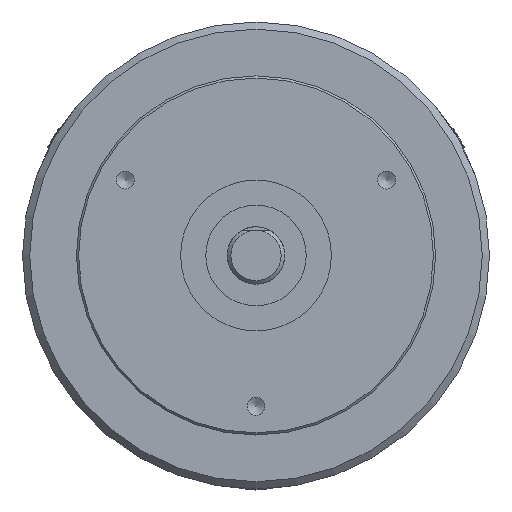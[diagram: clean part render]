
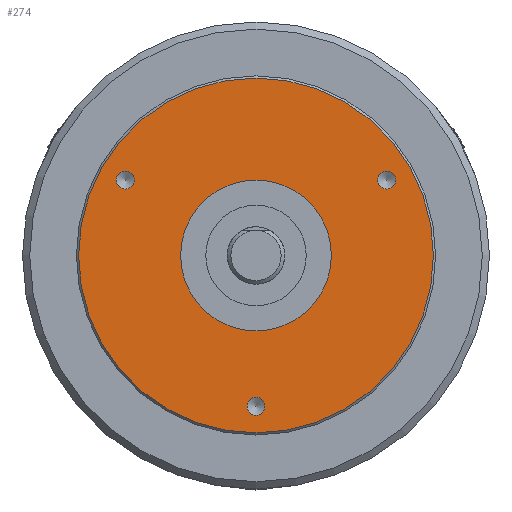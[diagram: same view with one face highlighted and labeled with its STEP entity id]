
A CAD part, left-side view. The second image highlights one B-rep face of the part: STEP entity #274.
In plain terms, the highlighted planar face has unit normal (-1, 0, 0).
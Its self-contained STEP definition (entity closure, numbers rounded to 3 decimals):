
#274=ADVANCED_FACE('',(#624,#625,#626,#627,#628),#629,.F.);
#624=FACE_OUTER_BOUND('',#1123,.T.);
#625=FACE_BOUND('',#1124,.T.);
#626=FACE_BOUND('',#1125,.T.);
#627=FACE_BOUND('',#1126,.T.);
#628=FACE_BOUND('',#1127,.T.);
#629=PLANE('',#1128);
#1123=EDGE_LOOP('',(#1705));
#1124=EDGE_LOOP('',(#1706));
#1125=EDGE_LOOP('',(#1707));
#1126=EDGE_LOOP('',(#1708));
#1127=EDGE_LOOP('',(#1709));
#1128=AXIS2_PLACEMENT_3D('',#1710,#1711,#1712);
#1705=ORIENTED_EDGE('',*,*,#2640,.T.);
#1706=ORIENTED_EDGE('',*,*,#2658,.F.);
#1707=ORIENTED_EDGE('',*,*,#2659,.F.);
#1708=ORIENTED_EDGE('',*,*,#2660,.F.);
#1709=ORIENTED_EDGE('',*,*,#2661,.F.);
#1710=CARTESIAN_POINT('',(0.,17.75,0.0));
#1711=DIRECTION('',(1.0,0.0,0.0));
#1712=DIRECTION('',(0.0,0.0,-1.0));
#2640=EDGE_CURVE('',#3070,#3070,#3071,.F.);
#2658=EDGE_CURVE('',#3098,#3098,#3099,.T.);
#2659=EDGE_CURVE('',#3100,#3100,#3101,.T.);
#2660=EDGE_CURVE('',#3102,#3102,#3103,.T.);
#2661=EDGE_CURVE('',#3104,#3104,#3105,.T.);
#3070=VERTEX_POINT('',#3715);
#3071=CIRCLE('',#3716,24.7);
#3098=VERTEX_POINT('',#3878);
#3099=CIRCLE('',#3879,1.25);
#3100=VERTEX_POINT('',#3880);
#3101=CIRCLE('',#3881,1.25);
#3102=VERTEX_POINT('',#3882);
#3103=CIRCLE('',#3883,1.25);
#3104=VERTEX_POINT('',#3884);
#3105=CIRCLE('',#3885,10.5);
#3715=CARTESIAN_POINT('',(0.,0.,-24.7));
#3716=AXIS2_PLACEMENT_3D('',#4784,#4785,#4786);
#3878=CARTESIAN_POINT('',(0.,-1.25,-21.0));
#3879=AXIS2_PLACEMENT_3D('',#4805,#4806,#4807);
#3880=CARTESIAN_POINT('',(0.,-19.437,10.5));
#3881=AXIS2_PLACEMENT_3D('',#4808,#4809,#4810);
#3882=CARTESIAN_POINT('',(0.,16.937,10.5));
#3883=AXIS2_PLACEMENT_3D('',#4811,#4812,#4813);
#3884=CARTESIAN_POINT('',(0.0,0.0,10.5));
#3885=AXIS2_PLACEMENT_3D('',#4814,#4815,#4816);
#4784=CARTESIAN_POINT('',(0.,0.0,0.0));
#4785=DIRECTION('',(1.0,0.0,0.0));
#4786=DIRECTION('',(0.0,0.0,-1.0));
#4805=CARTESIAN_POINT('',(0.,0.0,-21.0));
#4806=DIRECTION('',(-1.0,0.0,0.0));
#4807=DIRECTION('',(0.0,-1.0,0.0));
#4808=CARTESIAN_POINT('',(0.,-18.187,10.5));
#4809=DIRECTION('',(-1.0,0.0,0.0));
#4810=DIRECTION('',(0.0,-1.0,0.0));
#4811=CARTESIAN_POINT('',(0.,18.187,10.5));
#4812=DIRECTION('',(-1.0,0.0,0.0));
#4813=DIRECTION('',(0.0,-1.0,0.0));
#4814=CARTESIAN_POINT('',(0.0,0.0,0.0));
#4815=DIRECTION('',(-1.0,0.0,0.0));
#4816=DIRECTION('',(0.0,0.0,1.0));
